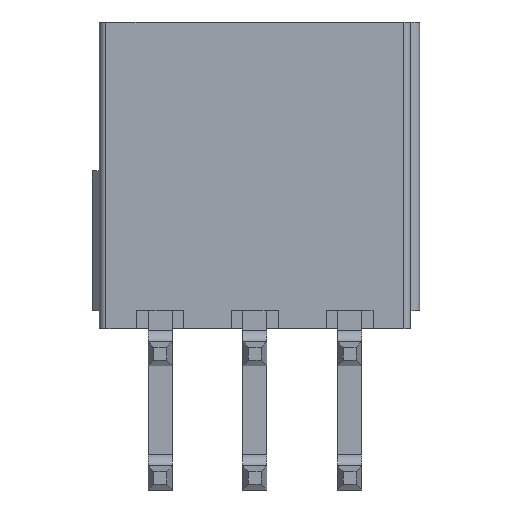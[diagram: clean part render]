
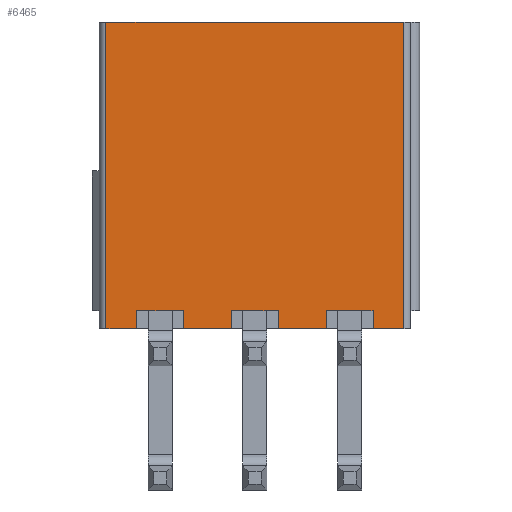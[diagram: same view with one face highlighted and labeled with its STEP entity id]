
A CAD part, front view. The second image highlights one B-rep face of the part: STEP entity #6465.
In plain terms, the highlighted planar face has unit normal (0, -1, 0).
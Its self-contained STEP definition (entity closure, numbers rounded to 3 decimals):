
#327=DIRECTION('',(1.,0.,0.));
#328=VECTOR('',#327,1.365);
#329=CARTESIAN_POINT('',(12.149,3.966,-17.826));
#330=LINE('',#329,#328);
#331=DIRECTION('',(0.,0.,-1.));
#332=VECTOR('',#331,13.6);
#333=CARTESIAN_POINT('',(12.149,3.966,-4.226));
#334=LINE('',#333,#332);
#339=DIRECTION('',(-1.,0.,0.));
#340=VECTOR('',#339,2.07);
#341=CARTESIAN_POINT('',(23.984,3.966,-17.026));
#342=LINE('',#341,#340);
#343=DIRECTION('',(0.,0.,1.));
#344=VECTOR('',#343,0.8);
#345=CARTESIAN_POINT('',(19.784,3.966,-17.826));
#346=LINE('',#345,#344);
#347=DIRECTION('',(-1.,0.,0.));
#348=VECTOR('',#347,2.07);
#349=CARTESIAN_POINT('',(19.784,3.966,-17.026));
#350=LINE('',#349,#348);
#351=DIRECTION('',(-1.,0.,0.));
#352=VECTOR('',#351,2.07);
#353=CARTESIAN_POINT('',(15.584,3.966,-17.026));
#354=LINE('',#353,#352);
#355=DIRECTION('',(1.,0.,0.));
#356=VECTOR('',#355,13.2);
#357=CARTESIAN_POINT('',(12.149,3.966,-4.226));
#358=LINE('',#357,#356);
#359=DIRECTION('',(0.,0.,1.));
#360=VECTOR('',#359,0.8);
#361=CARTESIAN_POINT('',(21.914,3.966,-17.826));
#362=LINE('',#361,#360);
#505=DIRECTION('',(1.,0.,0.));
#506=VECTOR('',#505,2.13);
#507=CARTESIAN_POINT('',(19.784,3.966,-17.826));
#508=LINE('',#507,#506);
#513=DIRECTION('',(0.,0.,1.));
#514=VECTOR('',#513,0.8);
#515=CARTESIAN_POINT('',(17.714,3.966,-17.826));
#516=LINE('',#515,#514);
#647=DIRECTION('',(0.,0.,-1.));
#648=VECTOR('',#647,0.8);
#649=CARTESIAN_POINT('',(15.584,3.966,-17.026));
#650=LINE('',#649,#648);
#667=DIRECTION('',(1.,0.,0.));
#668=VECTOR('',#667,2.13);
#669=CARTESIAN_POINT('',(15.584,3.966,-17.826));
#670=LINE('',#669,#668);
#671=DIRECTION('',(0.,0.,1.));
#672=VECTOR('',#671,0.8);
#673=CARTESIAN_POINT('',(13.514,3.966,-17.826));
#674=LINE('',#673,#672);
#691=DIRECTION('',(0.,0.,1.));
#692=VECTOR('',#691,13.6);
#693=CARTESIAN_POINT('',(25.349,3.966,-17.826));
#694=LINE('',#693,#692);
#723=DIRECTION('',(1.,0.,0.));
#724=VECTOR('',#723,1.365);
#725=CARTESIAN_POINT('',(23.984,3.966,-17.826));
#726=LINE('',#725,#724);
#732=DIRECTION('',(0.,0.,-1.));
#733=VECTOR('',#732,0.8);
#734=CARTESIAN_POINT('',(23.984,3.966,-17.026));
#735=LINE('',#734,#733);
#4385=CARTESIAN_POINT('',(25.349,3.966,-4.226));
#4386=VERTEX_POINT('',#4385);
#4387=CARTESIAN_POINT('',(12.149,3.966,-4.226));
#4389=VERTEX_POINT('',#4387);
#4625=CARTESIAN_POINT('',(13.514,3.966,-17.026));
#4627=VERTEX_POINT('',#4625);
#4630=CARTESIAN_POINT('',(15.584,3.966,-17.026));
#4632=VERTEX_POINT('',#4630);
#4653=CARTESIAN_POINT('',(17.714,3.966,-17.026));
#4655=VERTEX_POINT('',#4653);
#4658=CARTESIAN_POINT('',(19.784,3.966,-17.026));
#4660=VERTEX_POINT('',#4658);
#4681=CARTESIAN_POINT('',(21.914,3.966,-17.026));
#4683=VERTEX_POINT('',#4681);
#4686=CARTESIAN_POINT('',(23.984,3.966,-17.026));
#4688=VERTEX_POINT('',#4686);
#5177=CARTESIAN_POINT('',(21.914,3.966,-17.826));
#5178=VERTEX_POINT('',#5177);
#5179=CARTESIAN_POINT('',(19.784,3.966,-17.826));
#5180=VERTEX_POINT('',#5179);
#5181=CARTESIAN_POINT('',(17.714,3.966,-17.826));
#5182=VERTEX_POINT('',#5181);
#5183=CARTESIAN_POINT('',(15.584,3.966,-17.826));
#5184=VERTEX_POINT('',#5183);
#5185=CARTESIAN_POINT('',(13.514,3.966,-17.826));
#5186=VERTEX_POINT('',#5185);
#5187=CARTESIAN_POINT('',(12.149,3.966,-17.826));
#5188=VERTEX_POINT('',#5187);
#5189=CARTESIAN_POINT('',(25.349,3.966,-17.826));
#5190=VERTEX_POINT('',#5189);
#5191=CARTESIAN_POINT('',(23.984,3.966,-17.826));
#5192=VERTEX_POINT('',#5191);
#6432=CARTESIAN_POINT('',(18.749,3.966,-11.026));
#6433=DIRECTION('',(0.,1.,0.));
#6434=DIRECTION('',(1.,0.,0.));
#6435=AXIS2_PLACEMENT_3D('',#6432,#6433,#6434);
#6436=PLANE('',#6435);
#6437=ORIENTED_EDGE('',*,*,#5992,.T.);
#6439=ORIENTED_EDGE('',*,*,#6438,.F.);
#6441=ORIENTED_EDGE('',*,*,#6440,.F.);
#6443=ORIENTED_EDGE('',*,*,#6442,.T.);
#6444=ORIENTED_EDGE('',*,*,#5964,.T.);
#6446=ORIENTED_EDGE('',*,*,#6445,.F.);
#6448=ORIENTED_EDGE('',*,*,#6447,.F.);
#6450=ORIENTED_EDGE('',*,*,#6449,.F.);
#6451=ORIENTED_EDGE('',*,*,#5936,.T.);
#6453=ORIENTED_EDGE('',*,*,#6452,.F.);
#6454=ORIENTED_EDGE('',*,*,#6412,.F.);
#6455=ORIENTED_EDGE('',*,*,#6424,.F.);
#6456=ORIENTED_EDGE('',*,*,#5770,.T.);
#6458=ORIENTED_EDGE('',*,*,#6457,.F.);
#6460=ORIENTED_EDGE('',*,*,#6459,.F.);
#6462=ORIENTED_EDGE('',*,*,#6461,.F.);
#6463=EDGE_LOOP('',(#6437,#6439,#6441,#6443,#6444,#6446,#6448,#6450,#6451,#6453,
#6454,#6455,#6456,#6458,#6460,#6462));
#6464=FACE_OUTER_BOUND('',#6463,.F.);
#6465=ADVANCED_FACE('',(#6464),#6436,.F.);
#5770=EDGE_CURVE('',#4389,#4386,#358,.T.);
#5936=EDGE_CURVE('',#4632,#4627,#354,.T.);
#5964=EDGE_CURVE('',#4660,#4655,#350,.T.);
#5992=EDGE_CURVE('',#4688,#4683,#342,.T.);
#6412=EDGE_CURVE('',#5188,#5186,#330,.T.);
#6424=EDGE_CURVE('',#4389,#5188,#334,.T.);
#6438=EDGE_CURVE('',#5178,#4683,#362,.T.);
#6440=EDGE_CURVE('',#5180,#5178,#508,.T.);
#6442=EDGE_CURVE('',#5180,#4660,#346,.T.);
#6445=EDGE_CURVE('',#5182,#4655,#516,.T.);
#6447=EDGE_CURVE('',#5184,#5182,#670,.T.);
#6449=EDGE_CURVE('',#4632,#5184,#650,.T.);
#6452=EDGE_CURVE('',#5186,#4627,#674,.T.);
#6457=EDGE_CURVE('',#5190,#4386,#694,.T.);
#6459=EDGE_CURVE('',#5192,#5190,#726,.T.);
#6461=EDGE_CURVE('',#4688,#5192,#735,.T.);
